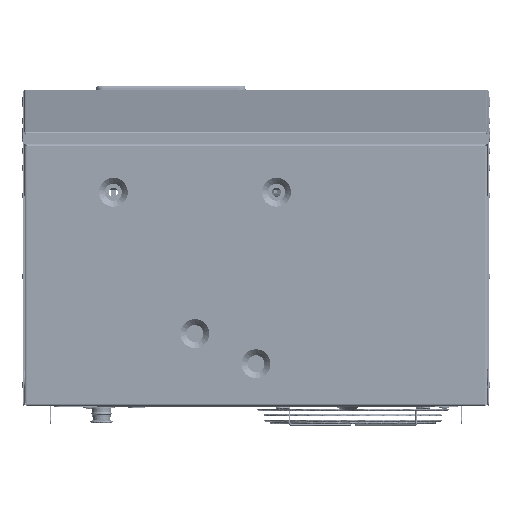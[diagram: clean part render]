
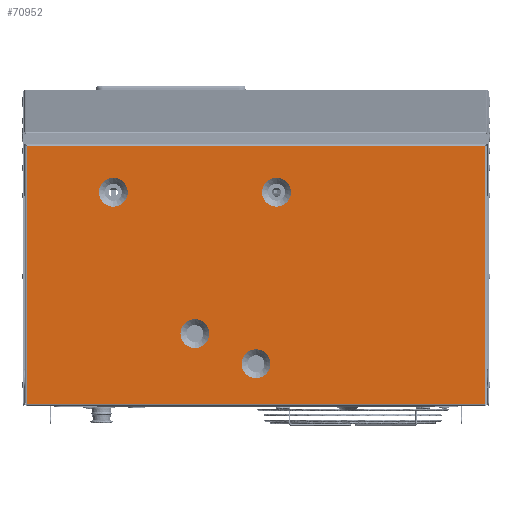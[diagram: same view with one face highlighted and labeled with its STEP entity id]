
A CAD part, front view. The second image highlights one B-rep face of the part: STEP entity #70952.
In plain terms, the highlighted planar face has unit normal (0, -1, 0).
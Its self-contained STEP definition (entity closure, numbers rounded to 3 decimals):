
#41146 = VERTEX_POINT ( 'NONE', #47827 ) ;
#41147 = VERTEX_POINT ( 'NONE', #47829 ) ;
#41210 = VERTEX_POINT ( 'NONE', #47945 ) ;
#41211 = VERTEX_POINT ( 'NONE', #47947 ) ;
#41218 = VERTEX_POINT ( 'NONE', #47959 ) ;
#41219 = VERTEX_POINT ( 'NONE', #47961 ) ;
#41226 = VERTEX_POINT ( 'NONE', #47974 ) ;
#41227 = VERTEX_POINT ( 'NONE', #47976 ) ;
#47827 = CARTESIAN_POINT ( 'NONE',  ( 0., -26.304, 0.971 ) ) ;
#47829 = CARTESIAN_POINT ( 'NONE',  ( 0., -26.304, 2.034 ) ) ;
#47945 = CARTESIAN_POINT ( 'NONE',  ( 0.755, -26.304, 7.286 ) ) ;
#47947 = CARTESIAN_POINT ( 'NONE',  ( 0.755, -26.304, 8.349 ) ) ;
#47959 = CARTESIAN_POINT ( 'NONE',  ( -5.255, -26.304, 7.286 ) ) ;
#47961 = CARTESIAN_POINT ( 'NONE',  ( -5.255, -26.304, 8.349 ) ) ;
#47974 = CARTESIAN_POINT ( 'NONE',  ( -2.25, -26.304, 2.081 ) ) ;
#47976 = CARTESIAN_POINT ( 'NONE',  ( -2.25, -26.304, 3.144 ) ) ;
#50943 = EDGE_CURVE ( 'NONE', #41147, #41146, #64327, .T. ) ;
#51927 = EDGE_CURVE ( 'NONE', #41211, #41210, #70500, .T. ) ;
#51936 = EDGE_CURVE ( 'NONE', #41219, #41218, #70527, .T. ) ;
#51944 = EDGE_CURVE ( 'NONE', #41227, #41226, #70551, .T. ) ;
#64327 = CIRCLE ( 'NONE', #65083, 0.531 ) ;
#65083 = AXIS2_PLACEMENT_3D ( 'NONE', #66870, #66871, #66872 ) ;
#65131 = AXIS2_PLACEMENT_3D ( 'NONE', #72398, #72400, #72402 ) ;
#65135 = AXIS2_PLACEMENT_3D ( 'NONE', #72441, #72444, #72445 ) ;
#65139 = AXIS2_PLACEMENT_3D ( 'NONE', #72481, #72484, #72485 ) ;
#65518 = AXIS2_PLACEMENT_3D ( 'NONE', #94876, #94883, #94886 ) ;
#66870 = CARTESIAN_POINT ( 'NONE',  ( 0., -26.304, 1.502 ) ) ;
#66871 = DIRECTION ( 'NONE',  ( 0., 1., 0. ) ) ;
#66872 = DIRECTION ( 'NONE',  ( 0., 0., 1. ) ) ;
#70500 = CIRCLE ( 'NONE', #65131, 0.531 ) ;
#70527 = CIRCLE ( 'NONE', #65135, 0.531 ) ;
#70551 = CIRCLE ( 'NONE', #65139, 0.531 ) ;
#70952 = ADVANCED_FACE ( 'NONE', ( #76086, #76079, #76097, #76101, #76090 ), #94866, .F. ) ;
#71486 = EDGE_CURVE ( 'NONE', #41146, #41147, #113873, .T. ) ;
#71534 = EDGE_CURVE ( 'NONE', #41218, #41219, #113959, .T. ) ;
#71536 = EDGE_CURVE ( 'NONE', #76327, #76326, #113953, .T. ) ;
#71539 = EDGE_CURVE ( 'NONE', #41210, #41211, #113967, .T. ) ;
#71541 = EDGE_CURVE ( 'NONE', #41226, #41227, #113971, .T. ) ;
#71544 = EDGE_CURVE ( 'NONE', #76320, #76322, #113963, .T. ) ;
#71546 = EDGE_CURVE ( 'NONE', #76322, #76324, #113969, .T. ) ;
#71548 = EDGE_CURVE ( 'NONE', #76324, #76326, #113976, .T. ) ;
#71551 = EDGE_CURVE ( 'NONE', #76327, #76329, #113980, .T. ) ;
#71553 = EDGE_CURVE ( 'NONE', #76329, #76331, #113984, .T. ) ;
#71556 = EDGE_CURVE ( 'NONE', #76331, #76333, #113988, .T. ) ;
#71558 = EDGE_CURVE ( 'NONE', #76333, #76320, #113992, .T. ) ;
#72398 = CARTESIAN_POINT ( 'NONE',  ( 0.755, -26.304, 7.817 ) ) ;
#72400 = DIRECTION ( 'NONE',  ( 0., 1., 0. ) ) ;
#72402 = DIRECTION ( 'NONE',  ( 0., 0., 1. ) ) ;
#72441 = CARTESIAN_POINT ( 'NONE',  ( -5.255, -26.304, 7.817 ) ) ;
#72444 = DIRECTION ( 'NONE',  ( 0., 1., 0. ) ) ;
#72445 = DIRECTION ( 'NONE',  ( 0., 0., 1. ) ) ;
#72481 = CARTESIAN_POINT ( 'NONE',  ( -2.25, -26.304, 2.612 ) ) ;
#72484 = DIRECTION ( 'NONE',  ( 0., 1., 0. ) ) ;
#72485 = DIRECTION ( 'NONE',  ( 0., 0., 1. ) ) ;
#74699 = ORIENTED_EDGE ( 'NONE', *, *, #50943, .T. ) ;
#74700 = ORIENTED_EDGE ( 'NONE', *, *, #71486, .T. ) ;
#74701 = ORIENTED_EDGE ( 'NONE', *, *, #51927, .T. ) ;
#74702 = ORIENTED_EDGE ( 'NONE', *, *, #71539, .T. ) ;
#74703 = ORIENTED_EDGE ( 'NONE', *, *, #51936, .T. ) ;
#74704 = ORIENTED_EDGE ( 'NONE', *, *, #71534, .T. ) ;
#74705 = ORIENTED_EDGE ( 'NONE', *, *, #51944, .T. ) ;
#74706 = ORIENTED_EDGE ( 'NONE', *, *, #71541, .T. ) ;
#74707 = ORIENTED_EDGE ( 'NONE', *, *, #71544, .T. ) ;
#74708 = ORIENTED_EDGE ( 'NONE', *, *, #71546, .T. ) ;
#74709 = ORIENTED_EDGE ( 'NONE', *, *, #71548, .T. ) ;
#74710 = ORIENTED_EDGE ( 'NONE', *, *, #71536, .F. ) ;
#74711 = ORIENTED_EDGE ( 'NONE', *, *, #71551, .T. ) ;
#74712 = ORIENTED_EDGE ( 'NONE', *, *, #71553, .T. ) ;
#74713 = ORIENTED_EDGE ( 'NONE', *, *, #71556, .T. ) ;
#74714 = ORIENTED_EDGE ( 'NONE', *, *, #71558, .T. ) ;
#76079 = FACE_BOUND ( 'NONE', #173240, .T. ) ;
#76086 = FACE_BOUND ( 'NONE', #173235, .T. ) ;
#76090 = FACE_OUTER_BOUND ( 'NONE', #173243, .T. ) ;
#76097 = FACE_BOUND ( 'NONE', #173241, .T. ) ;
#76101 = FACE_BOUND ( 'NONE', #173242, .T. ) ;
#76320 = VERTEX_POINT ( 'NONE', #162772 ) ;
#76322 = VERTEX_POINT ( 'NONE', #162774 ) ;
#76324 = VERTEX_POINT ( 'NONE', #162776 ) ;
#76326 = VERTEX_POINT ( 'NONE', #162778 ) ;
#76327 = VERTEX_POINT ( 'NONE', #162780 ) ;
#76329 = VERTEX_POINT ( 'NONE', #162782 ) ;
#76331 = VERTEX_POINT ( 'NONE', #162785 ) ;
#76333 = VERTEX_POINT ( 'NONE', #162787 ) ;
#94866 = PLANE ( 'NONE',  #65518 ) ;
#94876 = CARTESIAN_POINT ( 'NONE',  ( -8.515, -26.304, 0.033 ) ) ;
#94883 = DIRECTION ( 'NONE',  ( 0., 1., 0. ) ) ;
#94886 = DIRECTION ( 'NONE',  ( 0., 0., 1. ) ) ;
#109434 = CARTESIAN_POINT ( 'NONE',  ( 0., -26.304, 1.502 ) ) ;
#109437 = DIRECTION ( 'NONE',  ( 0., 1., 0. ) ) ;
#109440 = DIRECTION ( 'NONE',  ( 0., 0., 1. ) ) ;
#109609 = CARTESIAN_POINT ( 'NONE',  ( -5.255, -26.304, 7.817 ) ) ;
#109612 = DIRECTION ( 'NONE',  ( 0., 1., 0. ) ) ;
#109615 = DIRECTION ( 'NONE',  ( 0., 0., 1. ) ) ;
#109618 = CARTESIAN_POINT ( 'NONE',  ( -2.25, -26.304, 2.612 ) ) ;
#109619 = CARTESIAN_POINT ( 'NONE',  ( -8.515, -26.304, 0.03 ) ) ;
#109622 = DIRECTION ( 'NONE',  ( -1., 0., 0. ) ) ;
#109625 = CARTESIAN_POINT ( 'NONE',  ( 0.755, -26.304, 7.817 ) ) ;
#109626 = CARTESIAN_POINT ( 'NONE',  ( -8.434, -26.304, 0.033 ) ) ;
#109629 = DIRECTION ( 'NONE',  ( 0., 1., 0. ) ) ;
#109632 = DIRECTION ( 'NONE',  ( 0., 0., 1. ) ) ;
#109637 = DIRECTION ( 'NONE',  ( 0., 1., 0. ) ) ;
#109639 = DIRECTION ( 'NONE',  ( 0., 0., 1. ) ) ;
#109644 = CARTESIAN_POINT ( 'NONE',  ( -8.437, -26.304, 9.504 ) ) ;
#109646 = DIRECTION ( 'NONE',  ( 0., 0., -1. ) ) ;
#109652 = DIRECTION ( 'NONE',  ( 1., 0., 0. ) ) ;
#109656 = CARTESIAN_POINT ( 'NONE',  ( -8.434, -26.304, 0. ) ) ;
#109658 = DIRECTION ( 'NONE',  ( 0., 0., -1. ) ) ;
#109663 = CARTESIAN_POINT ( 'NONE',  ( 8.434, -26.304, 0. ) ) ;
#109664 = DIRECTION ( 'NONE',  ( 0., 0., 1. ) ) ;
#109669 = CARTESIAN_POINT ( 'NONE',  ( 8.434, -26.304, 0.033 ) ) ;
#109670 = DIRECTION ( 'NONE',  ( 1., 0., 0. ) ) ;
#109675 = CARTESIAN_POINT ( 'NONE',  ( 8.437, -26.304, 0.033 ) ) ;
#109678 = DIRECTION ( 'NONE',  ( 0., 0., 1. ) ) ;
#109681 = CARTESIAN_POINT ( 'NONE',  ( 8.515, -26.304, 9.504 ) ) ;
#109683 = DIRECTION ( 'NONE',  ( -1., 0., 0. ) ) ;
#111088 = AXIS2_PLACEMENT_3D ( 'NONE', #109434, #109437, #109440 ) ;
#111121 = AXIS2_PLACEMENT_3D ( 'NONE', #109625, #109629, #109632 ) ;
#111127 = AXIS2_PLACEMENT_3D ( 'NONE', #109609, #109612, #109615 ) ;
#111130 = AXIS2_PLACEMENT_3D ( 'NONE', #109618, #109637, #109639 ) ;
#113873 = CIRCLE ( 'NONE', #111088, 0.531 ) ;
#113949 = VECTOR ( 'NONE', #109622, 39.37 ) ;
#113953 = LINE ( 'NONE', #109619, #113949 ) ;
#113959 = CIRCLE ( 'NONE', #111127, 0.531 ) ;
#113963 = LINE ( 'NONE', #109644, #113965 ) ;
#113965 = VECTOR ( 'NONE', #109646, 39.37 ) ;
#113967 = CIRCLE ( 'NONE', #111121, 0.531 ) ;
#113969 = LINE ( 'NONE', #109626, #113973 ) ;
#113971 = CIRCLE ( 'NONE', #111130, 0.531 ) ;
#113973 = VECTOR ( 'NONE', #109652, 39.37 ) ;
#113976 = LINE ( 'NONE', #109656, #113978 ) ;
#113978 = VECTOR ( 'NONE', #109658, 39.37 ) ;
#113980 = LINE ( 'NONE', #109663, #113982 ) ;
#113982 = VECTOR ( 'NONE', #109664, 39.37 ) ;
#113984 = LINE ( 'NONE', #109669, #113986 ) ;
#113986 = VECTOR ( 'NONE', #109670, 39.37 ) ;
#113988 = LINE ( 'NONE', #109675, #113990 ) ;
#113990 = VECTOR ( 'NONE', #109678, 39.37 ) ;
#113992 = LINE ( 'NONE', #109681, #113994 ) ;
#113994 = VECTOR ( 'NONE', #109683, 39.37 ) ;
#162772 = CARTESIAN_POINT ( 'NONE',  ( -8.437, -26.304, 9.504 ) ) ;
#162774 = CARTESIAN_POINT ( 'NONE',  ( -8.437, -26.304, 0.033 ) ) ;
#162776 = CARTESIAN_POINT ( 'NONE',  ( -8.434, -26.304, 0.033 ) ) ;
#162778 = CARTESIAN_POINT ( 'NONE',  ( -8.434, -26.304, 0.03 ) ) ;
#162780 = CARTESIAN_POINT ( 'NONE',  ( 8.434, -26.304, 0.03 ) ) ;
#162782 = CARTESIAN_POINT ( 'NONE',  ( 8.434, -26.304, 0.033 ) ) ;
#162785 = CARTESIAN_POINT ( 'NONE',  ( 8.437, -26.304, 0.033 ) ) ;
#162787 = CARTESIAN_POINT ( 'NONE',  ( 8.437, -26.304, 9.504 ) ) ;
#173235 = EDGE_LOOP ( 'NONE', ( #74699, #74700 ) ) ;
#173240 = EDGE_LOOP ( 'NONE', ( #74701, #74702 ) ) ;
#173241 = EDGE_LOOP ( 'NONE', ( #74703, #74704 ) ) ;
#173242 = EDGE_LOOP ( 'NONE', ( #74705, #74706 ) ) ;
#173243 = EDGE_LOOP ( 'NONE', ( #74707, #74708, #74709, #74710, #74711, #74712, #74713, #74714 ) ) ;
